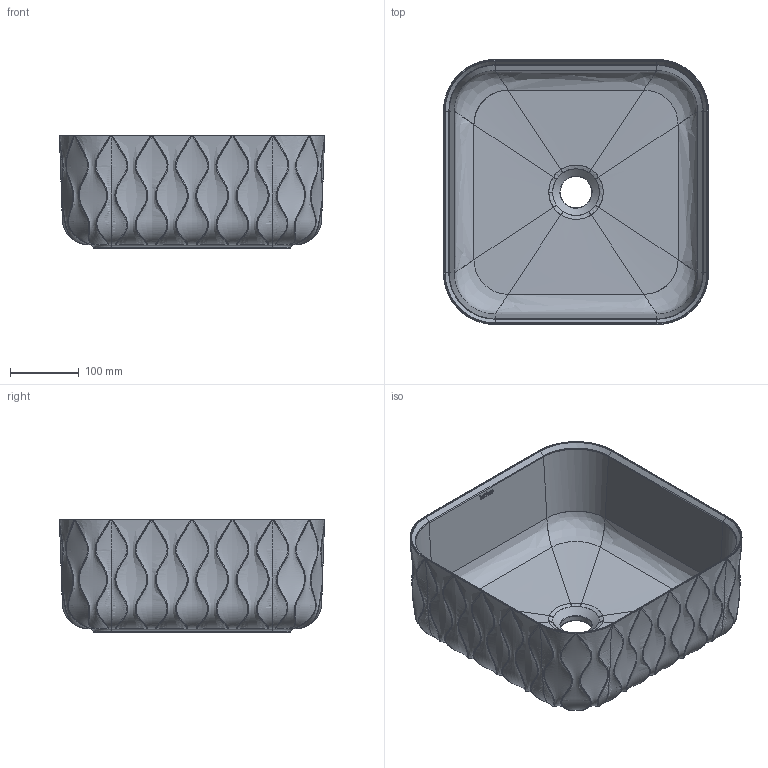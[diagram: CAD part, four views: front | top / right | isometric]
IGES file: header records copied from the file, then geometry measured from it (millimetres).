
Global section: file name: C:\Users\User\Desktop\4168_Sandwaves 38.igs; native system: Rhinoceros ( May  7 2021 ); preprocessor: Trout Lake IGES 012 May  7 2021; date: 231113.100844; units: millimetre
Bounding box: 384.96 x 384.96 x 165 mm (x, y, z)
Surface area: 650359.8 mm2 (no closed solid volume)
Topology: 0 solids, 0 shells, 317 faces, 3788 edges, 3741 vertices
Faces by surface type: bspline 317
